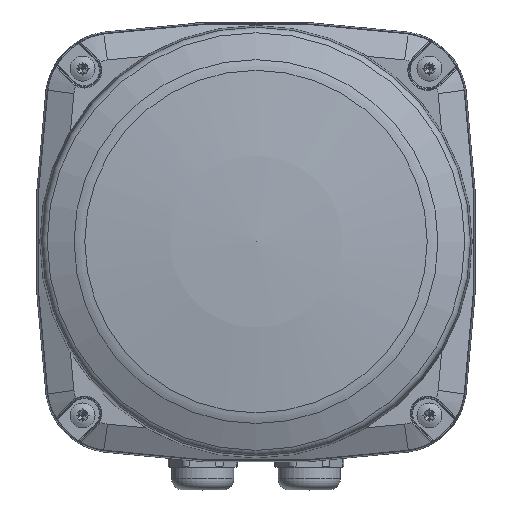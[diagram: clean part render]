
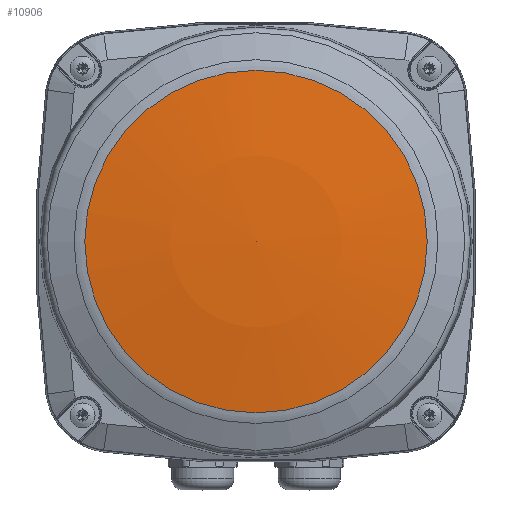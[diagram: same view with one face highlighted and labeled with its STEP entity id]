
A CAD part, top view. The second image highlights one B-rep face of the part: STEP entity #10906.
In plain terms, the highlighted spherical face has radius 288 mm.
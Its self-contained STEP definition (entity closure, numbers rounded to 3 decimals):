
#115=SPHERICAL_SURFACE('',#45043,288.);
#8627=FACE_OUTER_BOUND('',#16140,.T.);
#10906=ADVANCED_FACE('',(#8627),#115,.T.);
#13285=CIRCLE('',#45042,38.519);
#16140=EDGE_LOOP('',(#27876));
#27876=ORIENTED_EDGE('',*,*,#38898,.T.);
#34236=VERTEX_POINT('',#75135);
#38898=EDGE_CURVE('',#34236,#34236,#13285,.T.);
#45042=AXIS2_PLACEMENT_3D('',#75134,#51932,#51933);
#45043=AXIS2_PLACEMENT_3D('',#75136,#51934,#51935);
#51932=DIRECTION('',(0.,0.,1.));
#51933=DIRECTION('',(0.,-1.,0.));
#51934=DIRECTION('',(0.,0.,1.));
#51935=DIRECTION('',(0.,-1.,0.));
#75134=CARTESIAN_POINT('',(0.,0.,81.982));
#75135=CARTESIAN_POINT('',(0.,-38.519,81.982));
#75136=CARTESIAN_POINT('',(0.,0.,-203.43));
